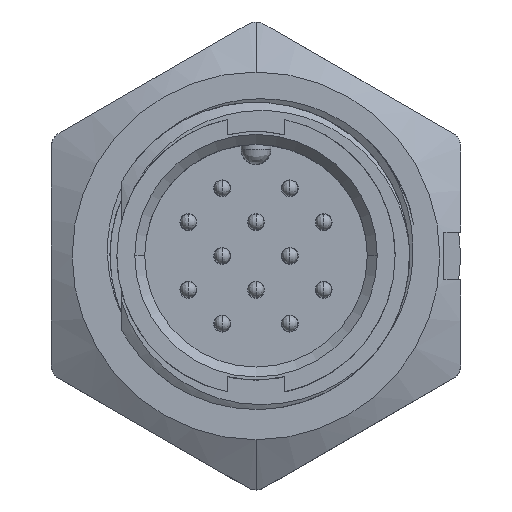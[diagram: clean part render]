
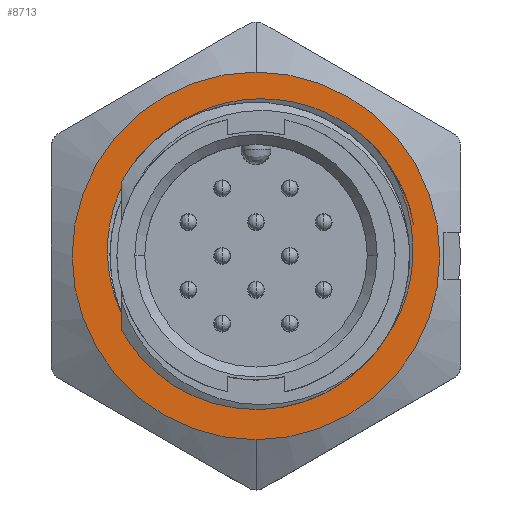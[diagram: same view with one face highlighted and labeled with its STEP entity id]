
A CAD part, top view. The second image highlights one B-rep face of the part: STEP entity #8713.
In plain terms, the highlighted planar face has unit normal (0, 0, 1).
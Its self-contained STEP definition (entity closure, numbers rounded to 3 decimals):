
#602 = EDGE_CURVE ( 'NONE', #11061, #6424, #3697, .T. ) ;
#639 = DIRECTION ( 'NONE',  ( 0., 0., 1. ) ) ;
#811 = CARTESIAN_POINT ( 'NONE',  ( 7.06, 3.95, -6.1 ) ) ;
#874 = CARTESIAN_POINT ( 'NONE',  ( -6.682, -3.063, -6.1 ) ) ;
#1093 = CARTESIAN_POINT ( 'NONE',  ( 5.365, 6.07, -6.1 ) ) ;
#1098 = CARTESIAN_POINT ( 'NONE',  ( 7.786, -1.344, -6.1 ) ) ;
#1187 = CARTESIAN_POINT ( 'NONE',  ( -3.134, 7.185, -6.1 ) ) ;
#1333 = VERTEX_POINT ( 'NONE', #8248 ) ;
#1376 = CARTESIAN_POINT ( 'NONE',  ( -0.561, 7.913, -6.1 ) ) ;
#1777 = CARTESIAN_POINT ( 'NONE',  ( -3.169, -6.635, -6.1 ) ) ;
#1865 = CARTESIAN_POINT ( 'NONE',  ( -5.963, -4.299, -6.1 ) ) ;
#2056 = EDGE_LOOP ( 'NONE', ( #4194, #2704, #2177, #8299 ) ) ;
#2177 = ORIENTED_EDGE ( 'NONE', *, *, #4500, .T. ) ;
#2207 = CARTESIAN_POINT ( 'NONE',  ( 0., 0., -6.1 ) ) ;
#2499 = CARTESIAN_POINT ( 'NONE',  ( 5.365, 6.07, -6.1 ) ) ;
#2704 = ORIENTED_EDGE ( 'NONE', *, *, #14321, .F. ) ;
#2889 = EDGE_CURVE ( 'NONE', #1333, #9172, #3076, .T. ) ;
#2958 = CIRCLE ( 'NONE', #15689, 9.25 ) ;
#2996 = EDGE_CURVE ( 'NONE', #11061, #9997, #12382, .T. ) ;
#3076 = CIRCLE ( 'NONE', #12540, 9.25 ) ;
#3078 = CARTESIAN_POINT ( 'NONE',  ( -5.895, -4.391, -6.1 ) ) ;
#3258 = CARTESIAN_POINT ( 'NONE',  ( 0., 0., -6.1 ) ) ;
#3264 = CARTESIAN_POINT ( 'NONE',  ( -4.029, -6.148, -6.1 ) ) ;
#3439 = CARTESIAN_POINT ( 'NONE',  ( -3.938, -6.207, -6.1 ) ) ;
#3607 = DIRECTION ( 'NONE',  ( 0., 0., -1. ) ) ;
#3697 = B_SPLINE_CURVE_WITH_KNOTS ( 'NONE', 3,
 ( #17540, #1777, #17453, #6055, #3439, #3264, #11704, #12974, #4757, #15783, #9007, #3078, #1865, #17363, #16056, #8746 ),
 .UNSPECIFIED., .F., .F.,
 ( 4, 1, 2, 2, 2, 1, 2, 2, 4 ),
 ( 0., 0.125, 0.188, 0.25, 0.5, 0.625, 0.688, 0.75, 1. ),
 .UNSPECIFIED. ) ;
#3889 = CARTESIAN_POINT ( 'NONE',  ( 5.732, -5.207, -6.1 ) ) ;
#3983 = CARTESIAN_POINT ( 'NONE',  ( -7.119, 2.711, -6.1 ) ) ;
#4078 = CARTESIAN_POINT ( 'NONE',  ( -7.058, -2.317, -6.1 ) ) ;
#4085 = CARTESIAN_POINT ( 'NONE',  ( 7.228, -3.031, -6.1 ) ) ;
#4194 = ORIENTED_EDGE ( 'NONE', *, *, #602, .T. ) ;
#4353 = CARTESIAN_POINT ( 'NONE',  ( 2.14, 7.737, -6.1 ) ) ;
#4500 = EDGE_CURVE ( 'NONE', #14042, #9997, #9948, .T. ) ;
#4757 = CARTESIAN_POINT ( 'NONE',  ( -5.32, -5.077, -6.1 ) ) ;
#4985 = B_SPLINE_CURVE_WITH_KNOTS ( 'NONE', 3,
 ( #1093, #15276, #5471, #4353, #14047, #1376, #8257, #1187, #7046, #11125, #16778, #16682, #3983, #15178, #12672, #8166, #4078, #15370 ),
 .UNSPECIFIED., .F., .F.,
 ( 4, 2, 2, 2, 2, 2, 2, 2, 4 ),
 ( 0., 0.125, 0.25, 0.375, 0.5, 0.625, 0.75, 0.875, 1. ),
 .UNSPECIFIED. ) ;
#5285 = CARTESIAN_POINT ( 'NONE',  ( 6.808, -3.822, -6.1 ) ) ;
#5374 = CARTESIAN_POINT ( 'NONE',  ( -2.216, -7.089, -6.1 ) ) ;
#5471 = CARTESIAN_POINT ( 'NONE',  ( 3.849, 7.115, -6.1 ) ) ;
#5678 = ORIENTED_EDGE ( 'NONE', *, *, #2889, .F. ) ;
#6055 = CARTESIAN_POINT ( 'NONE',  ( -3.75, -6.322, -6.1 ) ) ;
#6312 = AXIS2_PLACEMENT_3D ( 'NONE', #14812, #639, #16230 ) ;
#6424 = VERTEX_POINT ( 'NONE', #874 ) ;
#6763 = CARTESIAN_POINT ( 'NONE',  ( 7.921, -0.448, -6.1 ) ) ;
#7046 = CARTESIAN_POINT ( 'NONE',  ( -3.918, 6.752, -6.1 ) ) ;
#7802 = DIRECTION ( 'NONE',  ( -1., 0., 0. ) ) ;
#7881 = DIRECTION ( 'NONE',  ( 0., 0., -1. ) ) ;
#7888 = CARTESIAN_POINT ( 'NONE',  ( 7.706, 2.251, -6.1 ) ) ;
#8166 = CARTESIAN_POINT ( 'NONE',  ( -7.308, -1.502, -6.1 ) ) ;
#8182 = CARTESIAN_POINT ( 'NONE',  ( 5.992, 5.451, -6.1 ) ) ;
#8248 = CARTESIAN_POINT ( 'NONE',  ( 0., 9.25, -6.1 ) ) ;
#8257 = CARTESIAN_POINT ( 'NONE',  ( -1.455, 7.766, -6.1 ) ) ;
#8273 = CARTESIAN_POINT ( 'NONE',  ( 5.577, 5.884, -6.1 ) ) ;
#8299 = ORIENTED_EDGE ( 'NONE', *, *, #2996, .F. ) ;
#8713 = ADVANCED_FACE ( 'NONE', ( #11960, #16324 ), #13322, .T. ) ;
#8746 = CARTESIAN_POINT ( 'NONE',  ( -6.682, -3.063, -6.1 ) ) ;
#9007 = CARTESIAN_POINT ( 'NONE',  ( -5.759, -4.569, -6.1 ) ) ;
#9172 = VERTEX_POINT ( 'NONE', #9666 ) ;
#9666 = CARTESIAN_POINT ( 'NONE',  ( 0., -9.25, -6.1 ) ) ;
#9727 = CARTESIAN_POINT ( 'NONE',  ( 7.879, 1.35, -6.1 ) ) ;
#9767 = CARTESIAN_POINT ( 'NONE',  ( -2.967, -6.725, -6.1 ) ) ;
#9948 = B_SPLINE_CURVE_WITH_KNOTS ( 'NONE', 3,
 ( #2499, #15489, #8273, #13971, #16698, #8182 ),
 .UNSPECIFIED., .F., .F.,
 ( 4, 2, 4 ),
 ( 0., 0.5, 1. ),
 .UNSPECIFIED. ) ;
#9997 = VERTEX_POINT ( 'NONE', #15434 ) ;
#10756 = CARTESIAN_POINT ( 'NONE',  ( 5.077, -5.803, -6.1 ) ) ;
#11061 = VERTEX_POINT ( 'NONE', #9767 ) ;
#11125 = CARTESIAN_POINT ( 'NONE',  ( -5.289, 5.656, -6.1 ) ) ;
#11130 = CARTESIAN_POINT ( 'NONE',  ( 2.813, -7.078, -6.1 ) ) ;
#11704 = CARTESIAN_POINT ( 'NONE',  ( -4.494, -5.834, -6.1 ) ) ;
#11960 = FACE_BOUND ( 'NONE', #2056, .T. ) ;
#12310 = CARTESIAN_POINT ( 'NONE',  ( 0.283, -7.518, -6.1 ) ) ;
#12382 = B_SPLINE_CURVE_WITH_KNOTS ( 'NONE', 3,
 ( #18170, #5374, #13679, #12310, #17988, #11130, #16783, #10756, #3889, #5285, #4085, #1098, #6763, #9727, #7888, #811, #15568, #12590 ),
 .UNSPECIFIED., .F., .F.,
 ( 4, 2, 2, 2, 2, 2, 2, 2, 4 ),
 ( 0., 0.125, 0.25, 0.375, 0.5, 0.625, 0.75, 0.875, 1. ),
 .UNSPECIFIED. ) ;
#12540 = AXIS2_PLACEMENT_3D ( 'NONE', #3258, #3607, #7802 ) ;
#12590 = CARTESIAN_POINT ( 'NONE',  ( 5.992, 5.451, -6.1 ) ) ;
#12672 = CARTESIAN_POINT ( 'NONE',  ( -7.521, 0.176, -6.1 ) ) ;
#12968 = EDGE_CURVE ( 'NONE', #9172, #1333, #2958, .T. ) ;
#12974 = CARTESIAN_POINT ( 'NONE',  ( -4.84, -5.549, -6.1 ) ) ;
#13322 = PLANE ( 'NONE',  #6312 ) ;
#13487 = DIRECTION ( 'NONE',  ( -1., 0., 0. ) ) ;
#13677 = EDGE_LOOP ( 'NONE', ( #17224, #5678 ) ) ;
#13679 = CARTESIAN_POINT ( 'NONE',  ( -1.397, -7.328, -6.1 ) ) ;
#13971 = CARTESIAN_POINT ( 'NONE',  ( 5.798, 5.667, -6.1 ) ) ;
#14042 = VERTEX_POINT ( 'NONE', #16804 ) ;
#14047 = CARTESIAN_POINT ( 'NONE',  ( 1.237, 7.899, -6.1 ) ) ;
#14321 = EDGE_CURVE ( 'NONE', #14042, #6424, #4985, .T. ) ;
#14812 = CARTESIAN_POINT ( 'NONE',  ( 0., 0., -6.1 ) ) ;
#15178 = CARTESIAN_POINT ( 'NONE',  ( -7.483, 1.038, -6.1 ) ) ;
#15276 = CARTESIAN_POINT ( 'NONE',  ( 4.655, 6.655, -6.1 ) ) ;
#15370 = CARTESIAN_POINT ( 'NONE',  ( -6.682, -3.063, -6.1 ) ) ;
#15434 = CARTESIAN_POINT ( 'NONE',  ( 5.992, 5.451, -6.1 ) ) ;
#15489 = CARTESIAN_POINT ( 'NONE',  ( 5.469, 5.983, -6.1 ) ) ;
#15568 = CARTESIAN_POINT ( 'NONE',  ( 6.588, 4.749, -6.1 ) ) ;
#15689 = AXIS2_PLACEMENT_3D ( 'NONE', #2207, #7881, #13487 ) ;
#15783 = CARTESIAN_POINT ( 'NONE',  ( -5.548, -4.83, -6.1 ) ) ;
#16056 = CARTESIAN_POINT ( 'NONE',  ( -6.497, -3.464, -6.1 ) ) ;
#16230 = DIRECTION ( 'NONE',  ( 1., 0., 0. ) ) ;
#16324 = FACE_OUTER_BOUND ( 'NONE', #13677, .T. ) ;
#16682 = CARTESIAN_POINT ( 'NONE',  ( -6.791, 3.521, -6.1 ) ) ;
#16698 = CARTESIAN_POINT ( 'NONE',  ( 5.899, 5.559, -6.1 ) ) ;
#16778 = CARTESIAN_POINT ( 'NONE',  ( -5.876, 4.994, -6.1 ) ) ;
#16783 = CARTESIAN_POINT ( 'NONE',  ( 3.618, -6.74, -6.1 ) ) ;
#16804 = CARTESIAN_POINT ( 'NONE',  ( 5.365, 6.07, -6.1 ) ) ;
#17224 = ORIENTED_EDGE ( 'NONE', *, *, #12968, .F. ) ;
#17363 = CARTESIAN_POINT ( 'NONE',  ( -6.279, -3.846, -6.1 ) ) ;
#17453 = CARTESIAN_POINT ( 'NONE',  ( -3.465, -6.489, -6.1 ) ) ;
#17540 = CARTESIAN_POINT ( 'NONE',  ( -2.967, -6.725, -6.1 ) ) ;
#17988 = CARTESIAN_POINT ( 'NONE',  ( 1.145, -7.467, -6.1 ) ) ;
#18170 = CARTESIAN_POINT ( 'NONE',  ( -2.967, -6.725, -6.1 ) ) ;
